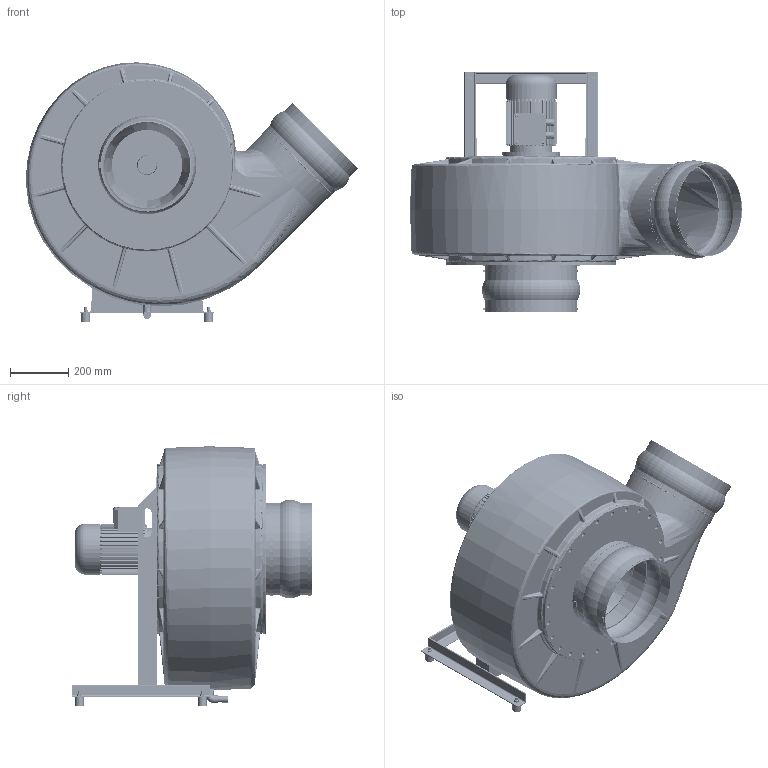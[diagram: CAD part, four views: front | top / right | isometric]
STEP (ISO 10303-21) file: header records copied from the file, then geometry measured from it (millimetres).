
FILE_DESCRIPTION( ( 'Unknown' ), '1' );
FILE_NAME( 'K:/HOME/HLT_CAD/Z/HF/3D/Zusammenstellung/HFR/HFR 15_17/HFR...-15D/DS_1/HFR_315-15D/GR315/HFR_315-15D_DS1_GR_315_090.stp', 'Unknown', ( 'Unknown' ), ( 'Unknown' ), 'PSStep 14.0', 'Unknown', ' ' );
FILE_SCHEMA( ( 'AUTOMOTIVE_DESIGN { 1 0 10303 214 1 1 1 1 }' ) );
Length unit declared in the file: millimetre
Products named in the file (32): 5217_Laufradbefestigung; 5217_Drehteil; 5217_Flachdichtung_Ø32; 5217_Schraubkappe; 5217_Flachdichtung_Ø63; 5158_Gehäusedeckel_315; 5158_Rohr; GD_FL 315; 315; 5158_Rohr_250; 5159_Kondensatablauf_125-315; Winkel_90°_G1_2; Stopfen_G1_2-oa4; Rohr_20; Verschlusskappe_20; 6203_Kugelmanschette; 6203_Manschettenband_HFR315; 6203_Schelle_HFR315; HFR 315_GR; Ensat-Buchse-M8; 5326_Gestell_HFR_315_15_D_DS1; 360-oa0; Angle 40x40x4-oa1; Angle 40x40x4-oa2; Angle 40x40x4-oa3; Assem1; Laufrad 315_GR; 6611_Motorring_Bg80; 6kant_M8; Schwidä_30x30; B5_90L_2HIHI
Assembly tree (95 placements, depth 3):
  Assem1
    Laufrad 315_GR
    6611_Motorring_Bg80
    6kant_M8  x4
    Schwidä_30x30  x4
    B5_90L_2HIHI
    5326_Gestell_HFR_315_15_D_DS1
      360-oa0
      Angle 40x40x4-oa1
      Angle 40x40x4-oa2
      Angle 40x40x4-oa3
    HFR 315_GR
      HFR 315_GR
      Ensat-Buchse-M8  x56
    5158_Gehäusedeckel_315
      5158_Rohr
      GD_FL 315
      315  x2
      5158_Rohr_250
    5159_Kondensatablauf_125-315
      Winkel_90°_G1_2
      Stopfen_G1_2-oa4
      Rohr_20
      Verschlusskappe_20
    6203_Kugelmanschette  x2
      6203_Manschettenband_HFR315
      6203_Schelle_HFR315
    5217_Laufradbefestigung
      5217_Drehteil
      5217_Flachdichtung_Ø32
      5217_Schraubkappe
      5217_Flachdichtung_Ø63
Bounding box: 1144.46 x 827 x 894.17 mm (x, y, z)
Volume: 15639896.7 mm3; surface area: 7900004.3 mm2
Topology: 90 solids, 92 shells, 3325 faces, 6993 edges, 4359 vertices
Faces by surface type: plane 1409, cylinder 1105, bspline 362, torus 223, cone 134, sphere 48, offset 36, revolution 8
Full cylindrical faces by diameter (mm): 6.647 x65, 8 x14, 9 x2, 10 x4, 10.5 x1, 11 x8, 12 x229, 13 x233, 15 x28, 16 x6, 17 x49, 20 x4, 20.955 x1, 22.212 x1, 23 x1, 24 x5, 25 x1, 26.5 x2, 28.8 x1, 30 x4, 30.291 x1, 32 x1, 33.25 x1, 37 x1, 40 x1, 44 x1, 46 x1, 50 x1, 52 x1, 53 x1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
Entity records: 180772 total; most frequent: CARTESIAN_POINT 103191, DIRECTION 11469, ORIENTED_EDGE 10360, EDGE_CURVE 5180, AXIS2_PLACEMENT_3D 4878, EDGE_LOOP 3783, VERTEX_POINT 3502, FACE_OUTER_BOUND 3246
